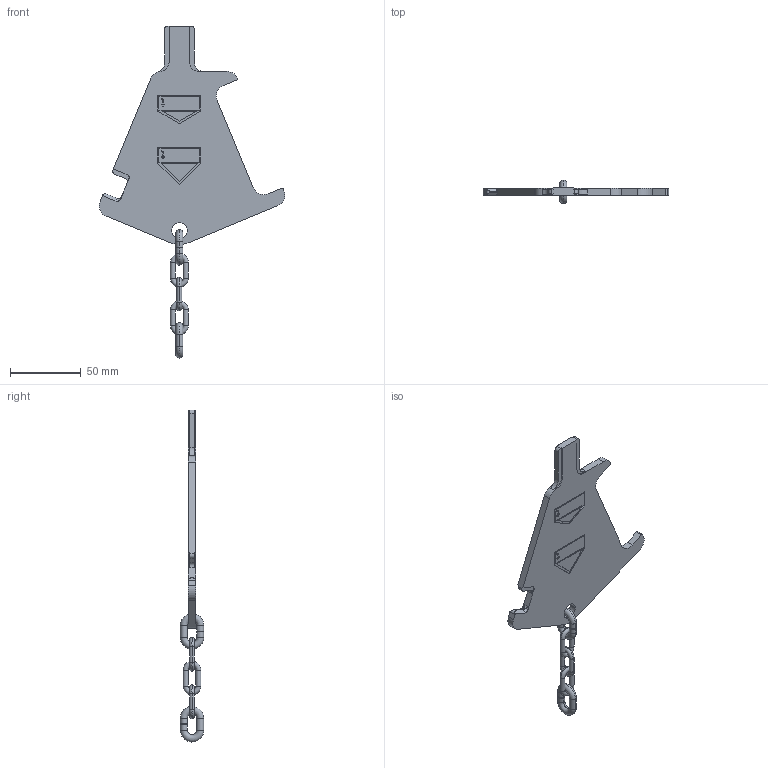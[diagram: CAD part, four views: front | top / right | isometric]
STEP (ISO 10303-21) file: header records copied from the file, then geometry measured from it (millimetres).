
FILE_DESCRIPTION((''),'2;1');
FILE_NAME('4VKZA16_BEIDS','2005-01-19T',('jakubetz'),(''),'PRO/ENGINEER BY PARAMETRIC TECHNOLOGY CORPORATION, 2001400','PRO/ENGINEER BY PARAMETRIC TECHNOLOGY CORPORATION, 2001400','');
FILE_SCHEMA(('CONFIG_CONTROL_DESIGN'));
Length unit declared in the file: millimetre
Products named in the file (1): 4VKZA16_BEIDS
Bounding box: 130.82 x 16.5 x 233.89 mm (x, y, z)
Volume: 52102.4 mm3; surface area: 26111.6 mm2
Topology: 6 solids, 6 shells, 213 faces, 546 edges, 350 vertices
Faces by surface type: plane 142, cylinder 51, torus 20
Entity records: 6619 total; most frequent: CARTESIAN_POINT 1374, ORIENTED_EDGE 1092, DIRECTION 1044, EDGE_CURVE 546, VECTOR 422, LINE 422, VERTEX_POINT 350, AXIS2_PLACEMENT_3D 311
